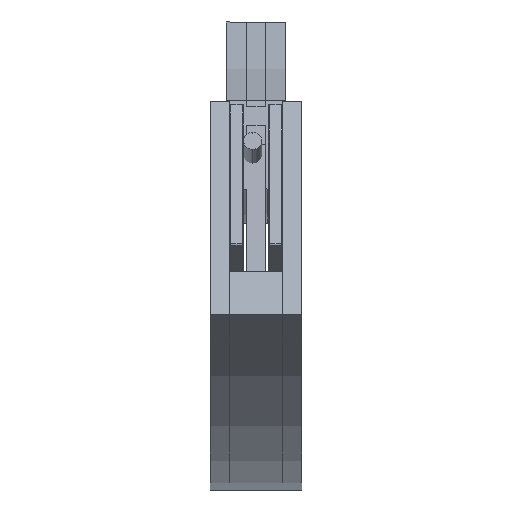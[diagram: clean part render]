
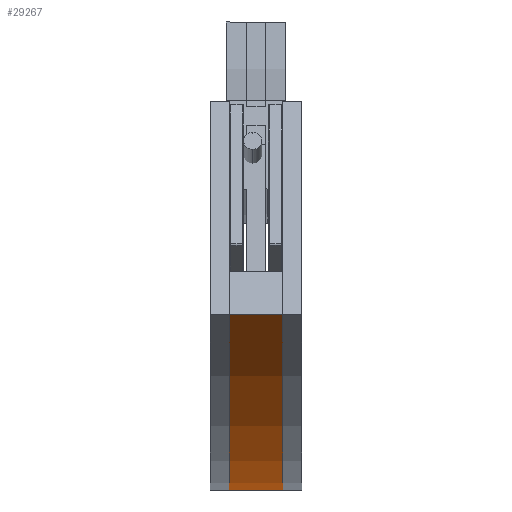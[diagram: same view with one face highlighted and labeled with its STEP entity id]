
A CAD part, left-side view. The second image highlights one B-rep face of the part: STEP entity #29267.
In plain terms, the highlighted cylindrical face has radius 280 mm (diameter 560 mm), a partial arc.
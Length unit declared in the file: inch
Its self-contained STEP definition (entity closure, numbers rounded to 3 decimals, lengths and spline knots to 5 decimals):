
#997 = VERTEX_POINT ( 'NONE', #9457 ) ;
#2383 = VERTEX_POINT ( 'NONE', #29911 ) ;
#2633 = ORIENTED_EDGE ( 'NONE', *, *, #28780, .T. ) ;
#5471 = ORIENTED_EDGE ( 'NONE', *, *, #38300, .F. ) ;
#6192 = VECTOR ( 'NONE', #31317, 39.37008 ) ;
#6515 = AXIS2_PLACEMENT_3D ( 'NONE', #11045, #16475, #14155 ) ;
#8836 = DIRECTION ( 'NONE',  ( 0., 0., -1. ) ) ;
#9457 = CARTESIAN_POINT ( 'NONE',  ( -3.65141, 6.34647, 11.13841 ) ) ;
#10300 = AXIS2_PLACEMENT_3D ( 'NONE', #32824, #23474, #11620 ) ;
#10571 = VECTOR ( 'NONE', #13655, 39.37008 ) ;
#11045 = CARTESIAN_POINT ( 'NONE',  ( 2.82811, 6.34647, 20.0567 ) ) ;
#11620 = DIRECTION ( 'NONE',  ( 0., 0., 1. ) ) ;
#13655 = DIRECTION ( 'NONE',  ( 0., -1., 0. ) ) ;
#14155 = DIRECTION ( 'NONE',  ( 0., 0., 1. ) ) ;
#14311 = DIRECTION ( 'NONE',  ( 0., -1., 0. ) ) ;
#14921 = CARTESIAN_POINT ( 'NONE',  ( -3.65141, 6.99214, 11.13841 ) ) ;
#15028 = ORIENTED_EDGE ( 'NONE', *, *, #24145, .T. ) ;
#16475 = DIRECTION ( 'NONE',  ( 0., 1., 0. ) ) ;
#16552 = LINE ( 'NONE', #16729, #10571 ) ;
#16565 = VERTEX_POINT ( 'NONE', #34389 ) ;
#16729 = CARTESIAN_POINT ( 'NONE',  ( 2.82811, 6.99214, 9.03308 ) ) ;
#16824 = AXIS2_PLACEMENT_3D ( 'NONE', #29484, #14311, #8836 ) ;
#17059 = LINE ( 'NONE', #37405, #6192 ) ;
#17084 = CIRCLE ( 'NONE', #6515, 11.02362 ) ;
#17410 = FACE_OUTER_BOUND ( 'NONE', #25877, .T. ) ;
#17593 = VERTEX_POINT ( 'NONE', #14921 ) ;
#22006 = ORIENTED_EDGE ( 'NONE', *, *, #28371, .T. ) ;
#23474 = DIRECTION ( 'NONE',  ( 0., 1., 0. ) ) ;
#24145 = EDGE_CURVE ( 'NONE', #2383, #997, #17084, .T. ) ;
#25877 = EDGE_LOOP ( 'NONE', ( #5471, #22006, #15028, #2633 ) ) ;
#28371 = EDGE_CURVE ( 'NONE', #16565, #2383, #16552, .T. ) ;
#28780 = EDGE_CURVE ( 'NONE', #997, #17593, #17059, .T. ) ;
#29267 = ADVANCED_FACE ( 'NONE', ( #17410 ), #37912, .T. ) ;
#29484 = CARTESIAN_POINT ( 'NONE',  ( 2.82811, 6.99214, 20.0567 ) ) ;
#29911 = CARTESIAN_POINT ( 'NONE',  ( 2.82811, 6.34647, 9.03308 ) ) ;
#31317 = DIRECTION ( 'NONE',  ( 0., 1., 0. ) ) ;
#32824 = CARTESIAN_POINT ( 'NONE',  ( 2.82811, 6.99214, 20.0567 ) ) ;
#34389 = CARTESIAN_POINT ( 'NONE',  ( 2.82811, 6.99214, 9.03308 ) ) ;
#35081 = CIRCLE ( 'NONE', #10300, 11.02362 ) ;
#37405 = CARTESIAN_POINT ( 'NONE',  ( -3.65141, 6.99214, 11.13841 ) ) ;
#37912 = CYLINDRICAL_SURFACE ( 'NONE', #16824, 11.02362 ) ;
#38300 = EDGE_CURVE ( 'NONE', #16565, #17593, #35081, .T. ) ;
